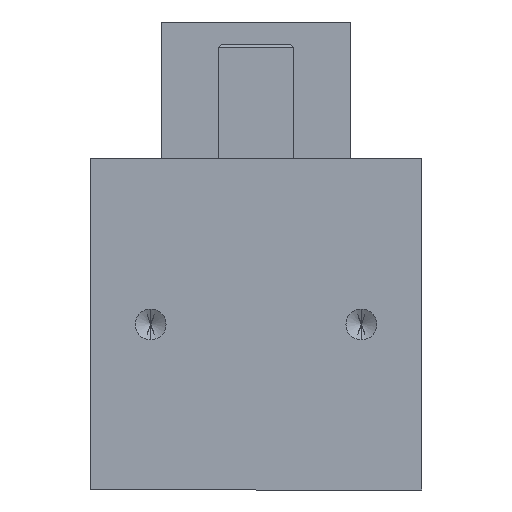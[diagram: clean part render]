
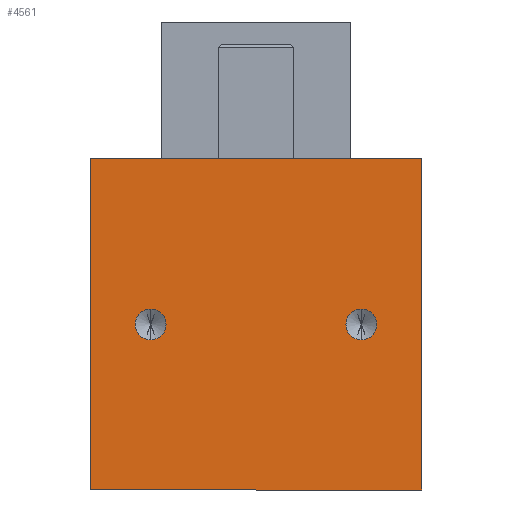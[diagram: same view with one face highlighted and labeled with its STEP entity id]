
A CAD part, front view. The second image highlights one B-rep face of the part: STEP entity #4561.
In plain terms, the highlighted planar face has unit normal (0, -1, 0).
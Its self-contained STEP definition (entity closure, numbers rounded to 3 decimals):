
#165 = CARTESIAN_POINT ( 'NONE',  ( 55., 0., 55. ) ) ;
#211 = CARTESIAN_POINT ( 'NONE',  ( -55., 0., 55. ) ) ;
#429 = ORIENTED_EDGE ( 'NONE', *, *, #4095, .F. ) ;
#442 = CARTESIAN_POINT ( 'NONE',  ( 55., 0., -55. ) ) ;
#449 = ORIENTED_EDGE ( 'NONE', *, *, #7678, .F. ) ;
#472 = VECTOR ( 'NONE', #3755, 1000. ) ;
#504 = ORIENTED_EDGE ( 'NONE', *, *, #4355, .F. ) ;
#512 = DIRECTION ( 'NONE',  ( 0., 0., 1. ) ) ;
#588 = ORIENTED_EDGE ( 'NONE', *, *, #8273, .F. ) ;
#831 = CARTESIAN_POINT ( 'NONE',  ( 35., 0., 0. ) ) ;
#919 = ORIENTED_EDGE ( 'NONE', *, *, #6929, .F. ) ;
#1000 = ORIENTED_EDGE ( 'NONE', *, *, #1204, .F. ) ;
#1089 = AXIS2_PLACEMENT_3D ( 'NONE', #2986, #6278, #3393 ) ;
#1204 = EDGE_CURVE ( 'NONE', #7112, #4506, #4605, .T. ) ;
#1477 = DIRECTION ( 'NONE',  ( 0., 0., -1. ) ) ;
#1504 = VECTOR ( 'NONE', #2938, 1000. ) ;
#1511 = LINE ( 'NONE', #1609, #1504 ) ;
#1609 = CARTESIAN_POINT ( 'NONE',  ( 55., 0., 55. ) ) ;
#1673 = DIRECTION ( 'NONE',  ( 0., -1., 0. ) ) ;
#1679 = CARTESIAN_POINT ( 'NONE',  ( -55., 0., 55. ) ) ;
#2190 = VERTEX_POINT ( 'NONE', #7386 ) ;
#2398 = CARTESIAN_POINT ( 'NONE',  ( -35., 0., 0. ) ) ;
#2408 = DIRECTION ( 'NONE',  ( 0., 0., -1. ) ) ;
#2486 = LINE ( 'NONE', #4246, #472 ) ;
#2518 = PLANE ( 'NONE',  #1089 ) ;
#2548 = ORIENTED_EDGE ( 'NONE', *, *, #2968, .F. ) ;
#2637 = ORIENTED_EDGE ( 'NONE', *, *, #3087, .F. ) ;
#2794 = CARTESIAN_POINT ( 'NONE',  ( -35., 0., -5.125 ) ) ;
#2938 = DIRECTION ( 'NONE',  ( 0., 0., -1. ) ) ;
#2968 = EDGE_CURVE ( 'NONE', #5872, #2190, #2486, .T. ) ;
#2969 = FACE_BOUND ( 'NONE', #4538, .T. ) ;
#2986 = CARTESIAN_POINT ( 'NONE',  ( 0., 0., 0. ) ) ;
#3087 = EDGE_CURVE ( 'NONE', #2190, #4951, #3447, .T. ) ;
#3194 = VERTEX_POINT ( 'NONE', #6076 ) ;
#3199 = DIRECTION ( 'NONE',  ( 0., -1., 0. ) ) ;
#3393 = DIRECTION ( 'NONE',  ( 0., 0., 1. ) ) ;
#3445 = CARTESIAN_POINT ( 'NONE',  ( 35., 0., 0. ) ) ;
#3447 = LINE ( 'NONE', #211, #4564 ) ;
#3755 = DIRECTION ( 'NONE',  ( -1., 0., 0. ) ) ;
#3776 = CIRCLE ( 'NONE', #7073, 5.125 ) ;
#4095 = EDGE_CURVE ( 'NONE', #4951, #7656, #7378, .T. ) ;
#4246 = CARTESIAN_POINT ( 'NONE',  ( 55., 0., -55. ) ) ;
#4355 = EDGE_CURVE ( 'NONE', #3194, #6021, #3776, .T. ) ;
#4393 = DIRECTION ( 'NONE',  ( 0., 0., -1. ) ) ;
#4404 = AXIS2_PLACEMENT_3D ( 'NONE', #4439, #4413, #4393 ) ;
#4413 = DIRECTION ( 'NONE',  ( 0., -1., 0. ) ) ;
#4439 = CARTESIAN_POINT ( 'NONE',  ( -35., 0., 0. ) ) ;
#4460 = EDGE_LOOP ( 'NONE', ( #2637, #2548, #449, #429 ) ) ;
#4506 = VERTEX_POINT ( 'NONE', #5644 ) ;
#4538 = EDGE_LOOP ( 'NONE', ( #1000, #919 ) ) ;
#4561 = ADVANCED_FACE ( 'NONE', ( #2969, #5438, #5533 ), #2518, .F. ) ;
#4564 = VECTOR ( 'NONE', #512, 1000. ) ;
#4605 = CIRCLE ( 'NONE', #7001, 5.125 ) ;
#4742 = CARTESIAN_POINT ( 'NONE',  ( 55., 0., 55. ) ) ;
#4794 = DIRECTION ( 'NONE',  ( 1., 0., 0. ) ) ;
#4928 = CIRCLE ( 'NONE', #6768, 5.125 ) ;
#4951 = VERTEX_POINT ( 'NONE', #1679 ) ;
#5257 = CARTESIAN_POINT ( 'NONE',  ( 35., 0., -5.125 ) ) ;
#5307 = DIRECTION ( 'NONE',  ( 0., -1., 0. ) ) ;
#5340 = EDGE_LOOP ( 'NONE', ( #588, #504 ) ) ;
#5438 = FACE_BOUND ( 'NONE', #5340, .T. ) ;
#5533 = FACE_OUTER_BOUND ( 'NONE', #4460, .T. ) ;
#5644 = CARTESIAN_POINT ( 'NONE',  ( -35., 0., 5.125 ) ) ;
#5829 = DIRECTION ( 'NONE',  ( 0., 0., -1. ) ) ;
#5872 = VERTEX_POINT ( 'NONE', #442 ) ;
#6004 = CIRCLE ( 'NONE', #4404, 5.125 ) ;
#6021 = VERTEX_POINT ( 'NONE', #5257 ) ;
#6076 = CARTESIAN_POINT ( 'NONE',  ( 35., 0., 5.125 ) ) ;
#6278 = DIRECTION ( 'NONE',  ( 0., 1., 0. ) ) ;
#6768 = AXIS2_PLACEMENT_3D ( 'NONE', #831, #5307, #1477 ) ;
#6929 = EDGE_CURVE ( 'NONE', #4506, #7112, #6004, .T. ) ;
#7001 = AXIS2_PLACEMENT_3D ( 'NONE', #2398, #1673, #2408 ) ;
#7073 = AXIS2_PLACEMENT_3D ( 'NONE', #3445, #3199, #5829 ) ;
#7112 = VERTEX_POINT ( 'NONE', #2794 ) ;
#7378 = LINE ( 'NONE', #4742, #7469 ) ;
#7386 = CARTESIAN_POINT ( 'NONE',  ( -55., 0., -55. ) ) ;
#7469 = VECTOR ( 'NONE', #4794, 1000. ) ;
#7656 = VERTEX_POINT ( 'NONE', #165 ) ;
#7678 = EDGE_CURVE ( 'NONE', #7656, #5872, #1511, .T. ) ;
#8273 = EDGE_CURVE ( 'NONE', #6021, #3194, #4928, .T. ) ;
